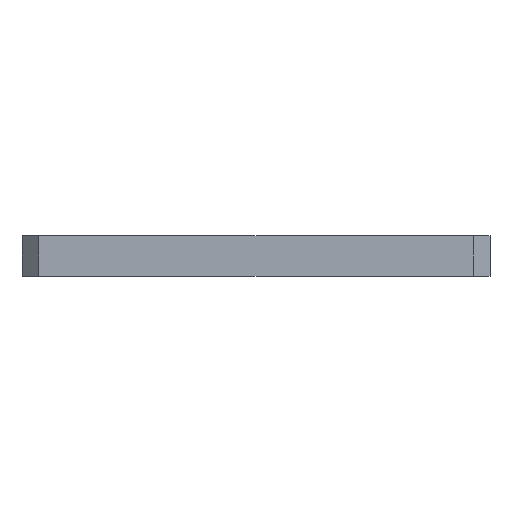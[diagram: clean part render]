
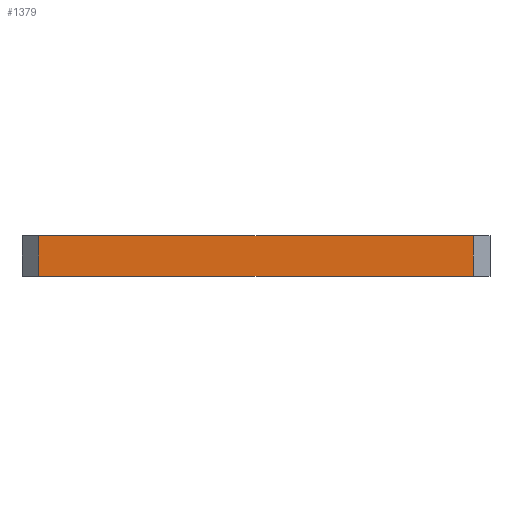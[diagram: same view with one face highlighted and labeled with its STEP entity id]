
A CAD part, front view. The second image highlights one B-rep face of the part: STEP entity #1379.
In plain terms, the highlighted planar face has unit normal (0, -1, 0).
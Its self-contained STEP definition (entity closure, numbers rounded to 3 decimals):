
#142 = VERTEX_POINT ( 'NONE', #150 ) ;
#150 = CARTESIAN_POINT ( 'NONE',  ( -65., -85., 12. ) ) ;
#185 = DIRECTION ( 'NONE',  ( 0., 0., -1. ) ) ;
#298 = FACE_OUTER_BOUND ( 'NONE', #735, .T. ) ;
#318 = CARTESIAN_POINT ( 'NONE',  ( 65., -85., 12. ) ) ;
#405 = CARTESIAN_POINT ( 'NONE',  ( -70., -85., 0. ) ) ;
#438 = EDGE_CURVE ( 'NONE', #1261, #1654, #1571, .T. ) ;
#439 = VECTOR ( 'NONE', #185, 1000. ) ;
#483 = ORIENTED_EDGE ( 'NONE', *, *, #1395, .T. ) ;
#557 = LINE ( 'NONE', #568, #439 ) ;
#568 = CARTESIAN_POINT ( 'NONE',  ( -65., -85., 12. ) ) ;
#658 = CARTESIAN_POINT ( 'NONE',  ( 65., -85., 0. ) ) ;
#700 = DIRECTION ( 'NONE',  ( 0., 1., 0. ) ) ;
#710 = VECTOR ( 'NONE', #1447, 1000. ) ;
#735 = EDGE_LOOP ( 'NONE', ( #830, #483, #984, #1424 ) ) ;
#812 = EDGE_CURVE ( 'NONE', #142, #1582, #1068, .T. ) ;
#825 = PLANE ( 'NONE',  #1091 ) ;
#830 = ORIENTED_EDGE ( 'NONE', *, *, #812, .F. ) ;
#937 = DIRECTION ( 'NONE',  ( 0., 0., 1. ) ) ;
#947 = CARTESIAN_POINT ( 'NONE',  ( -70., -85., 12. ) ) ;
#984 = ORIENTED_EDGE ( 'NONE', *, *, #438, .T. ) ;
#1034 = CARTESIAN_POINT ( 'NONE',  ( -65., -85., 0. ) ) ;
#1068 = LINE ( 'NONE', #947, #1637 ) ;
#1091 = AXIS2_PLACEMENT_3D ( 'NONE', #1252, #700, #1370 ) ;
#1252 = CARTESIAN_POINT ( 'NONE',  ( -70., -85., 12. ) ) ;
#1261 = VERTEX_POINT ( 'NONE', #1034 ) ;
#1265 = EDGE_CURVE ( 'NONE', #1654, #1582, #1308, .T. ) ;
#1308 = LINE ( 'NONE', #1698, #1532 ) ;
#1370 = DIRECTION ( 'NONE',  ( 0., 0., 1. ) ) ;
#1379 = ADVANCED_FACE ( 'NONE', ( #298 ), #825, .F. ) ;
#1395 = EDGE_CURVE ( 'NONE', #142, #1261, #557, .T. ) ;
#1424 = ORIENTED_EDGE ( 'NONE', *, *, #1265, .T. ) ;
#1447 = DIRECTION ( 'NONE',  ( 1., 0., 0. ) ) ;
#1532 = VECTOR ( 'NONE', #937, 1000. ) ;
#1571 = LINE ( 'NONE', #405, #710 ) ;
#1582 = VERTEX_POINT ( 'NONE', #318 ) ;
#1637 = VECTOR ( 'NONE', #1745, 1000. ) ;
#1654 = VERTEX_POINT ( 'NONE', #658 ) ;
#1698 = CARTESIAN_POINT ( 'NONE',  ( 65., -85., 12. ) ) ;
#1745 = DIRECTION ( 'NONE',  ( 1., 0., 0. ) ) ;
